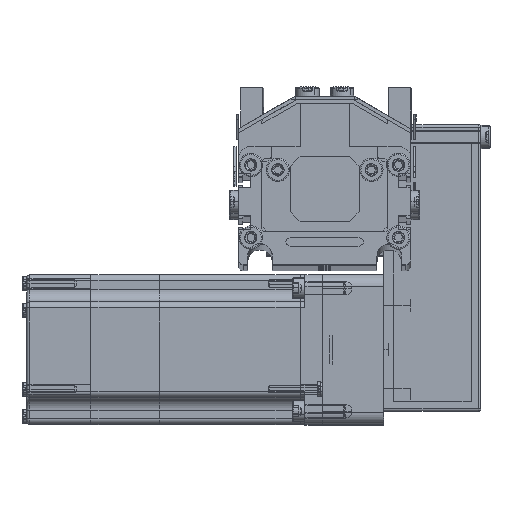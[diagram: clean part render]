
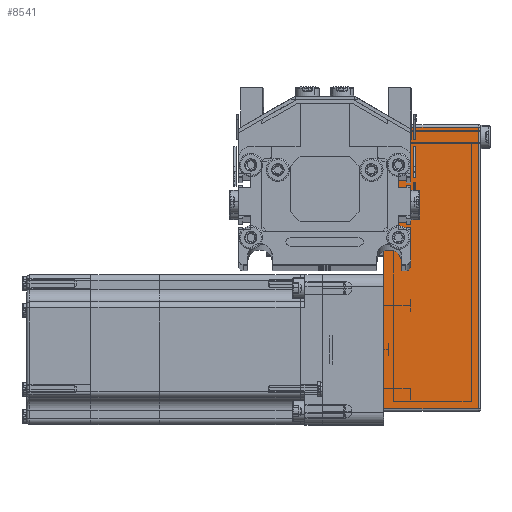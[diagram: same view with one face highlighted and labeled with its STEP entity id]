
A CAD part, top view. The second image highlights one B-rep face of the part: STEP entity #8541.
In plain terms, the highlighted planar face has unit normal (0, 0, 1) as drawn and (0, -1, 0) by its records, which use the part's own axes.
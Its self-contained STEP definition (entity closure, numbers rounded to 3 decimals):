
#8428 = EDGE_LOOP ( 'NONE', ( #8543, #8542, #8659, #8667 ) ) ;
#8455 = VERTEX_POINT ( 'NONE', #76557 ) ;
#8480 = EDGE_CURVE ( 'NONE', #8520, #8521, #76601, .T. ) ;
#8520 = VERTEX_POINT ( 'NONE', #76855 ) ;
#8521 = VERTEX_POINT ( 'NONE', #76826 ) ;
#8541 = ADVANCED_FACE ( 'NONE', ( #77203 ), #76979, .F. ) ;
#8542 = ORIENTED_EDGE ( 'NONE', *, *, #8652, .T. ) ;
#8543 = ORIENTED_EDGE ( 'NONE', *, *, #8656, .T. ) ;
#8606 = VERTEX_POINT ( 'NONE', #77584 ) ;
#8652 = EDGE_CURVE ( 'NONE', #8455, #8520, #77869, .T. ) ;
#8656 = EDGE_CURVE ( 'NONE', #8606, #8455, #77871, .T. ) ;
#8657 = EDGE_CURVE ( 'NONE', #8521, #8606, #77785, .T. ) ;
#8659 = ORIENTED_EDGE ( 'NONE', *, *, #8480, .T. ) ;
#8667 = ORIENTED_EDGE ( 'NONE', *, *, #8657, .T. ) ;
#76557 = CARTESIAN_POINT ( 'NONE',  ( -49., -25., 38.5 ) ) ;
#76601 = LINE ( 'NONE', #76705, #76704 ) ;
#76703 = DIRECTION ( 'NONE',  ( 1., 0., 0. ) ) ;
#76704 = VECTOR ( 'NONE', #76703, 1000. ) ;
#76705 = CARTESIAN_POINT ( 'NONE',  ( -50., -25., 0. ) ) ;
#76826 = CARTESIAN_POINT ( 'NONE',  ( 65.5, -25., 0. ) ) ;
#76855 = CARTESIAN_POINT ( 'NONE',  ( -49., -25., 0. ) ) ;
#76979 = PLANE ( 'NONE',  #77213 ) ;
#77203 = FACE_OUTER_BOUND ( 'NONE', #8428, .T. ) ;
#77204 = CARTESIAN_POINT ( 'NONE',  ( -50., -25., 39.5 ) ) ;
#77213 = AXIS2_PLACEMENT_3D ( 'NONE', #77204, #77229, #77228 ) ;
#77228 = DIRECTION ( 'NONE',  ( 0., 0., 1. ) ) ;
#77229 = DIRECTION ( 'NONE',  ( 0., 1., 0. ) ) ;
#77584 = CARTESIAN_POINT ( 'NONE',  ( 65.5, -25., 38.5 ) ) ;
#77715 = DIRECTION ( 'NONE',  ( 0., 0., 1. ) ) ;
#77716 = VECTOR ( 'NONE', #77715, 1000. ) ;
#77717 = CARTESIAN_POINT ( 'NONE',  ( 65.5, -25., 39.5 ) ) ;
#77719 = DIRECTION ( 'NONE',  ( -1., 0., 0. ) ) ;
#77720 = VECTOR ( 'NONE', #77719, 1000. ) ;
#77785 = LINE ( 'NONE', #77717, #77716 ) ;
#77787 = CARTESIAN_POINT ( 'NONE',  ( -50., -25., 38.5 ) ) ;
#77840 = DIRECTION ( 'NONE',  ( 0., 0., -1. ) ) ;
#77852 = VECTOR ( 'NONE', #77840, 1000. ) ;
#77867 = CARTESIAN_POINT ( 'NONE',  ( -49., -25., 39.5 ) ) ;
#77869 = LINE ( 'NONE', #77867, #77852 ) ;
#77871 = LINE ( 'NONE', #77787, #77720 ) ;
